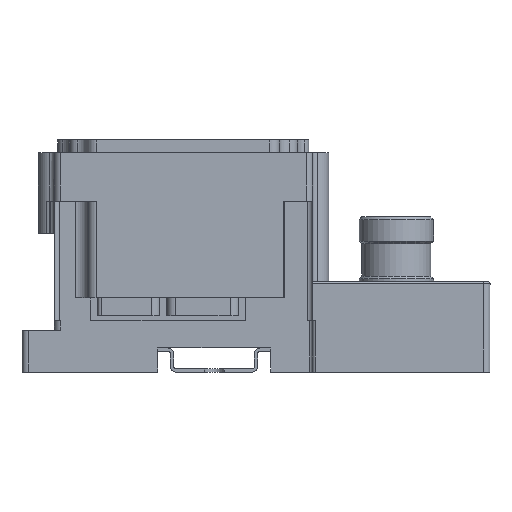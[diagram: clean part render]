
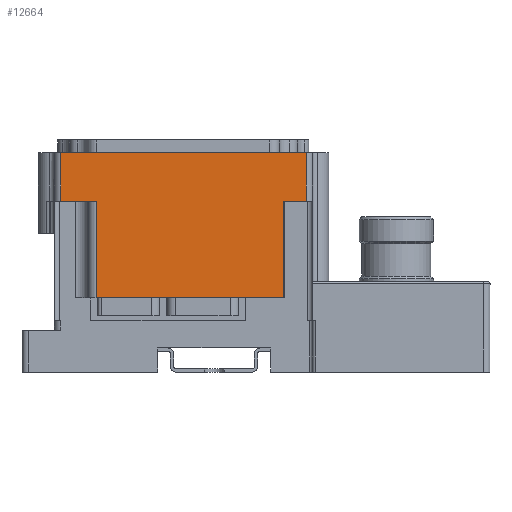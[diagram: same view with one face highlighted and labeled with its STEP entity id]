
A CAD part, left-side view. The second image highlights one B-rep face of the part: STEP entity #12664.
In plain terms, the highlighted planar face has unit normal (-1, 0, 0).
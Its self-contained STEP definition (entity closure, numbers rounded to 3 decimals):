
#11855=CARTESIAN_POINT('',(448.555,285.984,23.));
#11856=VERTEX_POINT('',#11855);
#11864=CARTESIAN_POINT('',(448.555,343.992,23.));
#11865=VERTEX_POINT('',#11864);
#11866=CARTESIAN_POINT('',(448.555,343.992,23.));
#11867=DIRECTION('',(0.0,-1.0,0.0));
#11868=VECTOR('',#11867,58.008);
#11869=LINE('',#11866,#11868);
#11870=EDGE_CURVE('',#11865,#11856,#11869,.T.);
#12082=CARTESIAN_POINT('',(448.555,343.992,53.));
#12083=VERTEX_POINT('',#12082);
#12091=CARTESIAN_POINT('',(448.555,355.022,53.0));
#12092=VERTEX_POINT('',#12091);
#12093=CARTESIAN_POINT('',(448.555,355.022,53.0));
#12094=DIRECTION('',(0.0,-1.0,0.0));
#12095=VECTOR('',#12094,11.03);
#12096=LINE('',#12093,#12095);
#12097=EDGE_CURVE('',#12092,#12083,#12096,.T.);
#12199=CARTESIAN_POINT('',(448.555,343.992,53.));
#12200=DIRECTION('',(0.0,0.0,-1.0));
#12201=VECTOR('',#12200,30.0);
#12202=LINE('',#12199,#12201);
#12203=EDGE_CURVE('',#12083,#11865,#12202,.T.);
#12224=CARTESIAN_POINT('',(448.555,285.984,53.));
#12225=VERTEX_POINT('',#12224);
#12233=CARTESIAN_POINT('',(448.555,285.984,23.));
#12234=DIRECTION('',(0.0,0.0,1.0));
#12235=VECTOR('',#12234,30.);
#12236=LINE('',#12233,#12235);
#12237=EDGE_CURVE('',#11856,#12225,#12236,.T.);
#12247=CARTESIAN_POINT('',(448.555,279.022,53.));
#12248=VERTEX_POINT('',#12247);
#12249=CARTESIAN_POINT('',(448.555,285.984,53.));
#12250=DIRECTION('',(0.0,-1.0,0.0));
#12251=VECTOR('',#12250,6.962);
#12252=LINE('',#12249,#12251);
#12253=EDGE_CURVE('',#12225,#12248,#12252,.T.);
#12555=CARTESIAN_POINT('',(448.555,279.022,68.));
#12556=VERTEX_POINT('',#12555);
#12564=CARTESIAN_POINT('',(448.555,279.022,68.));
#12565=DIRECTION('',(0.0,0.0,-1.0));
#12566=VECTOR('',#12565,15.0);
#12567=LINE('',#12564,#12566);
#12568=EDGE_CURVE('',#12556,#12248,#12567,.T.);
#12625=CARTESIAN_POINT('',(448.555,355.022,68.0));
#12626=VERTEX_POINT('',#12625);
#12627=CARTESIAN_POINT('',(448.555,355.022,68.0));
#12628=DIRECTION('',(0.0,0.0,-1.0));
#12629=VECTOR('',#12628,15.0);
#12630=LINE('',#12627,#12629);
#12631=EDGE_CURVE('',#12626,#12092,#12630,.T.);
#12644=CARTESIAN_POINT('',(448.555,355.022,68.0));
#12645=DIRECTION('',(-1.0,0.0,0.0));
#12646=DIRECTION('',(0.0,0.0,-1.0));
#12647=AXIS2_PLACEMENT_3D('',#12644,#12645,#12646);
#12648=PLANE('',#12647);
#12649=ORIENTED_EDGE('',*,*,#12203,.T.);
#12650=ORIENTED_EDGE('',*,*,#11870,.T.);
#12651=ORIENTED_EDGE('',*,*,#12237,.T.);
#12652=ORIENTED_EDGE('',*,*,#12253,.T.);
#12653=ORIENTED_EDGE('',*,*,#12568,.F.);
#12654=CARTESIAN_POINT('',(448.555,355.022,68.0));
#12655=DIRECTION('',(0.0,-1.0,0.0));
#12656=VECTOR('',#12655,76.0);
#12657=LINE('',#12654,#12656);
#12658=EDGE_CURVE('',#12626,#12556,#12657,.T.);
#12659=ORIENTED_EDGE('',*,*,#12658,.F.);
#12660=ORIENTED_EDGE('',*,*,#12631,.T.);
#12661=ORIENTED_EDGE('',*,*,#12097,.T.);
#12662=EDGE_LOOP('',(#12649,#12650,#12651,#12652,#12653,#12659,#12660,#12661));
#12663=FACE_OUTER_BOUND('',#12662,.T.);
#12664=ADVANCED_FACE('',(#12663),#12648,.T.);
